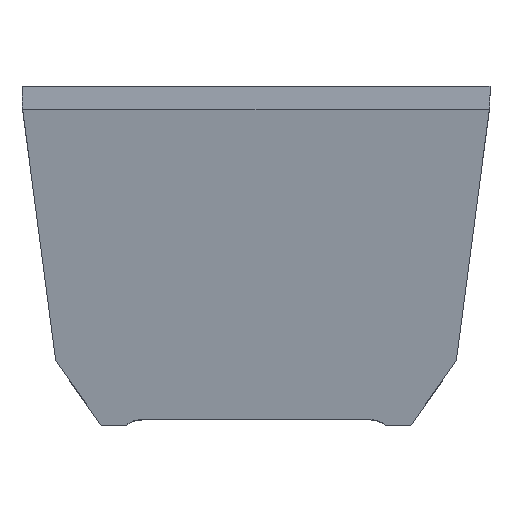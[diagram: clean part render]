
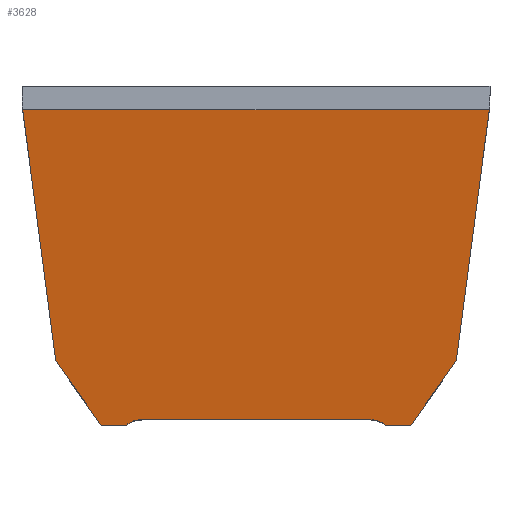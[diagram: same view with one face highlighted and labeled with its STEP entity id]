
A CAD part, top view. The second image highlights one B-rep face of the part: STEP entity #3628.
In plain terms, the highlighted planar face has unit normal (0, -0.147, 0.989).
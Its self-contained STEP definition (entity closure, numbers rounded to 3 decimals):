
#35 = VECTOR ( 'NONE', #2531, 1000. ) ;
#39 = LINE ( 'NONE', #2540, #35 ) ;
#59 = VECTOR ( 'NONE', #2561, 1000. ) ;
#61 = LINE ( 'NONE', #2569, #59 ) ;
#65 = VECTOR ( 'NONE', #2746, 1000. ) ;
#72 = VECTOR ( 'NONE', #2574, 1000. ) ;
#91 = LINE ( 'NONE', #2578, #72 ) ;
#121 = VECTOR ( 'NONE', #2629, 1000. ) ;
#122 = LINE ( 'NONE', #2630, #121 ) ;
#124 = VECTOR ( 'NONE', #2632, 1000. ) ;
#130 = LINE ( 'NONE', #2643, #124 ) ;
#133 = VECTOR ( 'NONE', #2646, 1000. ) ;
#134 = LINE ( 'NONE', #2647, #133 ) ;
#180 = VECTOR ( 'NONE', #2690, 1000. ) ;
#181 = LINE ( 'NONE', #2691, #180 ) ;
#225 = LINE ( 'NONE', #2498, #65 ) ;
#305 = ORIENTED_EDGE ( 'NONE', *, *, #1193, .F. ) ;
#306 = ORIENTED_EDGE ( 'NONE', *, *, #1108, .F. ) ;
#307 = ORIENTED_EDGE ( 'NONE', *, *, #1221, .F. ) ;
#308 = ORIENTED_EDGE ( 'NONE', *, *, #992, .F. ) ;
#309 = ORIENTED_EDGE ( 'NONE', *, *, #1115, .F. ) ;
#310 = ORIENTED_EDGE ( 'NONE', *, *, #1197, .T. ) ;
#311 = ORIENTED_EDGE ( 'NONE', *, *, #1110, .F. ) ;
#312 = ORIENTED_EDGE ( 'NONE', *, *, #1203, .F. ) ;
#313 = ORIENTED_EDGE ( 'NONE', *, *, #1028, .F. ) ;
#314 = ORIENTED_EDGE ( 'NONE', *, *, #1055, .T. ) ;
#315 = ORIENTED_EDGE ( 'NONE', *, *, #1231, .F. ) ;
#316 = ORIENTED_EDGE ( 'NONE', *, *, #1114, .F. ) ;
#451 = EDGE_LOOP ( 'NONE', ( #316, #315, #314, #313, #312, #311, #310, #309, #308, #307, #306, #305 ) ) ;
#992 = EDGE_CURVE ( 'NONE', #2382, #2438, #225, .T. ) ;
#1028 = EDGE_CURVE ( 'NONE', #2465, #2455, #1782, .T. ) ;
#1055 = EDGE_CURVE ( 'NONE', #2451, #2455, #181, .T. ) ;
#1108 = EDGE_CURVE ( 'NONE', #2441, #2379, #134, .T. ) ;
#1110 = EDGE_CURVE ( 'NONE', #2471, #2468, #1777, .T. ) ;
#1114 = EDGE_CURVE ( 'NONE', #2448, #2445, #130, .T. ) ;
#1115 = EDGE_CURVE ( 'NONE', #2438, #2472, #122, .T. ) ;
#1124 = AXIS2_PLACEMENT_3D ( 'NONE', #1561, #1554, #1552 ) ;
#1193 = EDGE_CURVE ( 'NONE', #2445, #2441, #1779, .T. ) ;
#1197 = EDGE_CURVE ( 'NONE', #2471, #2472, #91, .T. ) ;
#1203 = EDGE_CURVE ( 'NONE', #2468, #2465, #61, .T. ) ;
#1221 = EDGE_CURVE ( 'NONE', #2379, #2382, #1778, .T. ) ;
#1231 = EDGE_CURVE ( 'NONE', #2451, #2448, #39, .T. ) ;
#1552 = DIRECTION ( 'NONE',  ( 0., -0.989, -0.147 ) ) ;
#1554 = DIRECTION ( 'NONE',  ( 0., 0.147, -0.989 ) ) ;
#1561 = CARTESIAN_POINT ( 'NONE',  ( -179.531, 56.725, 26. ) ) ;
#1565 = PLANE ( 'NONE',  #1124 ) ;
#1777 =( BOUNDED_CURVE ( )  B_SPLINE_CURVE ( 3, ( #2645, #2642, #2641, #2640 ),
 .UNSPECIFIED., .F., .T. ) 
 B_SPLINE_CURVE_WITH_KNOTS ( ( 4, 4 ),
 ( 5.61, 6.283 ),
 .UNSPECIFIED. ) 
 CURVE ( )  GEOMETRIC_REPRESENTATION_ITEM ( )  RATIONAL_B_SPLINE_CURVE ( ( 1., 0.963, 0.963, 1. ) ) 
 REPRESENTATION_ITEM ( '' )  );
#1778 =( BOUNDED_CURVE ( )  B_SPLINE_CURVE ( 3, ( #2560, #2553, #2552, #2551 ),
 .UNSPECIFIED., .F., .T. ) 
 B_SPLINE_CURVE_WITH_KNOTS ( ( 4, 4 ),
 ( 1.667, 1.702 ),
 .UNSPECIFIED. ) 
 CURVE ( )  GEOMETRIC_REPRESENTATION_ITEM ( )  RATIONAL_B_SPLINE_CURVE ( ( 1., 1., 1., 1. ) ) 
 REPRESENTATION_ITEM ( '' )  );
#1779 =( BOUNDED_CURVE ( )  B_SPLINE_CURVE ( 3, ( #2589, #2585, #2584, #2583 ),
 .UNSPECIFIED., .F., .F. ) 
 B_SPLINE_CURVE_WITH_KNOTS ( ( 4, 4 ),
 ( 4.581, 4.616 ),
 .UNSPECIFIED. ) 
 CURVE ( )  GEOMETRIC_REPRESENTATION_ITEM ( )  RATIONAL_B_SPLINE_CURVE ( ( 1., 1., 1., 1. ) ) 
 REPRESENTATION_ITEM ( '' )  );
#1782 =( BOUNDED_CURVE ( )  B_SPLINE_CURVE ( 3, ( #2710, #2706, #2705, #2704 ),
 .UNSPECIFIED., .F., .T. ) 
 B_SPLINE_CURVE_WITH_KNOTS ( ( 4, 4 ),
 ( 0., 0.673 ),
 .UNSPECIFIED. ) 
 CURVE ( )  GEOMETRIC_REPRESENTATION_ITEM ( )  RATIONAL_B_SPLINE_CURVE ( ( 1., 0.963, 0.963, 1. ) ) 
 REPRESENTATION_ITEM ( '' )  );
#1894 = FACE_OUTER_BOUND ( 'NONE', #451, .T. ) ;
#2379 = VERTEX_POINT ( 'NONE', #2487 ) ;
#2382 = VERTEX_POINT ( 'NONE', #2486 ) ;
#2438 = VERTEX_POINT ( 'NONE', #2463 ) ;
#2441 = VERTEX_POINT ( 'NONE', #2462 ) ;
#2445 = VERTEX_POINT ( 'NONE', #2461 ) ;
#2448 = VERTEX_POINT ( 'NONE', #2458 ) ;
#2450 = CARTESIAN_POINT ( 'NONE',  ( 29.972, -4.3, 16.956 ) ) ;
#2451 = VERTEX_POINT ( 'NONE', #2457 ) ;
#2452 = CARTESIAN_POINT ( 'NONE',  ( 25.117, -4.3, 16.956 ) ) ;
#2453 = CARTESIAN_POINT ( 'NONE',  ( 22., -3.21, 17.118 ) ) ;
#2454 = CARTESIAN_POINT ( 'NONE',  ( -22., -3.21, 17.118 ) ) ;
#2455 = VERTEX_POINT ( 'NONE', #2456 ) ;
#2456 = CARTESIAN_POINT ( 'NONE',  ( -25.117, -4.3, 16.956 ) ) ;
#2457 = CARTESIAN_POINT ( 'NONE',  ( -29.972, -4.3, 16.956 ) ) ;
#2458 = CARTESIAN_POINT ( 'NONE',  ( -38.738, 8.23, 18.813 ) ) ;
#2461 = CARTESIAN_POINT ( 'NONE',  ( -44.993, 55.7, 25.848 ) ) ;
#2462 = CARTESIAN_POINT ( 'NONE',  ( -45.11, 56.725, 26. ) ) ;
#2463 = CARTESIAN_POINT ( 'NONE',  ( 38.738, 8.23, 18.813 ) ) ;
#2465 = VERTEX_POINT ( 'NONE', #2454 ) ;
#2468 = VERTEX_POINT ( 'NONE', #2453 ) ;
#2471 = VERTEX_POINT ( 'NONE', #2452 ) ;
#2472 = VERTEX_POINT ( 'NONE', #2450 ) ;
#2486 = CARTESIAN_POINT ( 'NONE',  ( 44.993, 55.7, 25.848 ) ) ;
#2487 = CARTESIAN_POINT ( 'NONE',  ( 45.11, 56.725, 26. ) ) ;
#2498 = CARTESIAN_POINT ( 'NONE',  ( 44.686, 53.369, 25.503 ) ) ;
#2531 = DIRECTION ( 'NONE',  ( -0.569, 0.813, 0.121 ) ) ;
#2540 = CARTESIAN_POINT ( 'NONE',  ( -38.099, 7.317, 18.678 ) ) ;
#2551 = CARTESIAN_POINT ( 'NONE',  ( 44.993, 55.7, 25.848 ) ) ;
#2552 = CARTESIAN_POINT ( 'NONE',  ( 45.038, 56.041, 25.899 ) ) ;
#2553 = CARTESIAN_POINT ( 'NONE',  ( 45.077, 56.383, 25.949 ) ) ;
#2560 = CARTESIAN_POINT ( 'NONE',  ( 45.11, 56.725, 26. ) ) ;
#2561 = DIRECTION ( 'NONE',  ( -1., 0., 0. ) ) ;
#2569 = CARTESIAN_POINT ( 'NONE',  ( -22., -3.21, 17.118 ) ) ;
#2574 = DIRECTION ( 'NONE',  ( 1., 0., 0. ) ) ;
#2578 = CARTESIAN_POINT ( 'NONE',  ( -179.531, -4.3, 16.956 ) ) ;
#2583 = CARTESIAN_POINT ( 'NONE',  ( -45.11, 56.725, 26. ) ) ;
#2584 = CARTESIAN_POINT ( 'NONE',  ( -45.077, 56.383, 25.949 ) ) ;
#2585 = CARTESIAN_POINT ( 'NONE',  ( -45.038, 56.041, 25.899 ) ) ;
#2589 = CARTESIAN_POINT ( 'NONE',  ( -44.993, 55.7, 25.848 ) ) ;
#2629 = DIRECTION ( 'NONE',  ( -0.569, -0.813, -0.121 ) ) ;
#2630 = CARTESIAN_POINT ( 'NONE',  ( 38.099, 7.317, 18.678 ) ) ;
#2632 = DIRECTION ( 'NONE',  ( -0.129, 0.981, 0.145 ) ) ;
#2640 = CARTESIAN_POINT ( 'NONE',  ( 22., -3.21, 17.118 ) ) ;
#2641 = CARTESIAN_POINT ( 'NONE',  ( 23.144, -3.21, 17.118 ) ) ;
#2642 = CARTESIAN_POINT ( 'NONE',  ( 24.223, -3.587, 17.062 ) ) ;
#2643 = CARTESIAN_POINT ( 'NONE',  ( -44.686, 53.369, 25.503 ) ) ;
#2645 = CARTESIAN_POINT ( 'NONE',  ( 25.117, -4.3, 16.956 ) ) ;
#2646 = DIRECTION ( 'NONE',  ( 1., 0., 0. ) ) ;
#2647 = CARTESIAN_POINT ( 'NONE',  ( -15.25, 56.725, 26. ) ) ;
#2690 = DIRECTION ( 'NONE',  ( 1., 0., 0. ) ) ;
#2691 = CARTESIAN_POINT ( 'NONE',  ( -179.531, -4.3, 16.956 ) ) ;
#2704 = CARTESIAN_POINT ( 'NONE',  ( -25.117, -4.3, 16.956 ) ) ;
#2705 = CARTESIAN_POINT ( 'NONE',  ( -24.223, -3.587, 17.062 ) ) ;
#2706 = CARTESIAN_POINT ( 'NONE',  ( -23.144, -3.21, 17.118 ) ) ;
#2710 = CARTESIAN_POINT ( 'NONE',  ( -22., -3.21, 17.118 ) ) ;
#2746 = DIRECTION ( 'NONE',  ( -0.129, -0.981, -0.145 ) ) ;
#3628 = ADVANCED_FACE ( 'NONE', ( #1894 ), #1565, .F. ) ;
